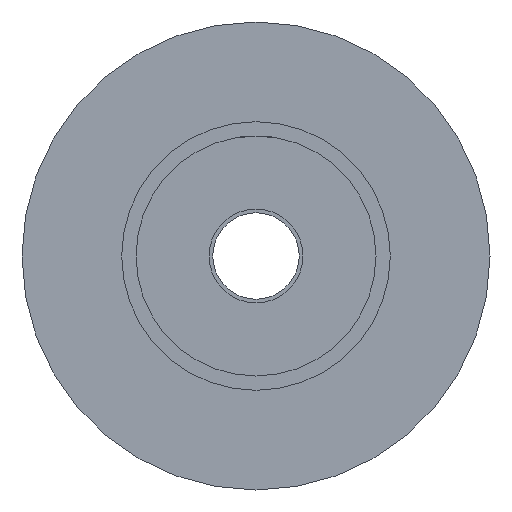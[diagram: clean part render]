
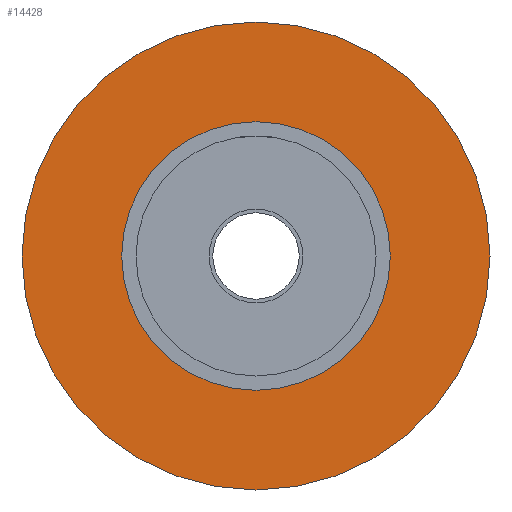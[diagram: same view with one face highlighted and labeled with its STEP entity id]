
A CAD part, front view. The second image highlights one B-rep face of the part: STEP entity #14428.
In plain terms, the highlighted planar face has unit normal (0, -1, 0).
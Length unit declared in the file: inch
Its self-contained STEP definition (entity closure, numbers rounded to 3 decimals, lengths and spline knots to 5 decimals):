
#14394=CARTESIAN_POINT('',(9.98031,9.80315,0.0));
#14395=VERTEX_POINT('',#14394);
#14396=CARTESIAN_POINT('',(0.0,9.80315,0.0));
#14397=DIRECTION('',(0.0,-1.0,0.0));
#14398=DIRECTION('',(1.0,0.0,0.0));
#14399=AXIS2_PLACEMENT_3D('',#14396,#14397,#14398);
#14400=CIRCLE('',#14399,9.98031);
#14401=EDGE_CURVE('',#14395,#14395,#14400,.T.);
#14409=CARTESIAN_POINT('',(7.85433,9.80315,0.0));
#14410=DIRECTION('',(0.0,-1.0,0.0));
#14411=DIRECTION('',(0.0,0.0,-1.0));
#14412=AXIS2_PLACEMENT_3D('',#14409,#14410,#14411);
#14413=PLANE('',#14412);
#14414=ORIENTED_EDGE('',*,*,#14401,.T.);
#14415=EDGE_LOOP('',(#14414));
#14416=FACE_OUTER_BOUND('',#14415,.T.);
#14417=CARTESIAN_POINT('',(5.72835,9.80315,0.0));
#14418=VERTEX_POINT('',#14417);
#14419=CARTESIAN_POINT('',(0.0,9.80315,0.0));
#14420=DIRECTION('',(0.0,-1.0,0.0));
#14421=DIRECTION('',(1.0,0.0,0.0));
#14422=AXIS2_PLACEMENT_3D('',#14419,#14420,#14421);
#14423=CIRCLE('',#14422,5.72835);
#14424=EDGE_CURVE('',#14418,#14418,#14423,.T.);
#14425=ORIENTED_EDGE('',*,*,#14424,.F.);
#14426=EDGE_LOOP('',(#14425));
#14427=FACE_BOUND('',#14426,.T.);
#14428=ADVANCED_FACE('',(#14416,#14427),#14413,.T.);
